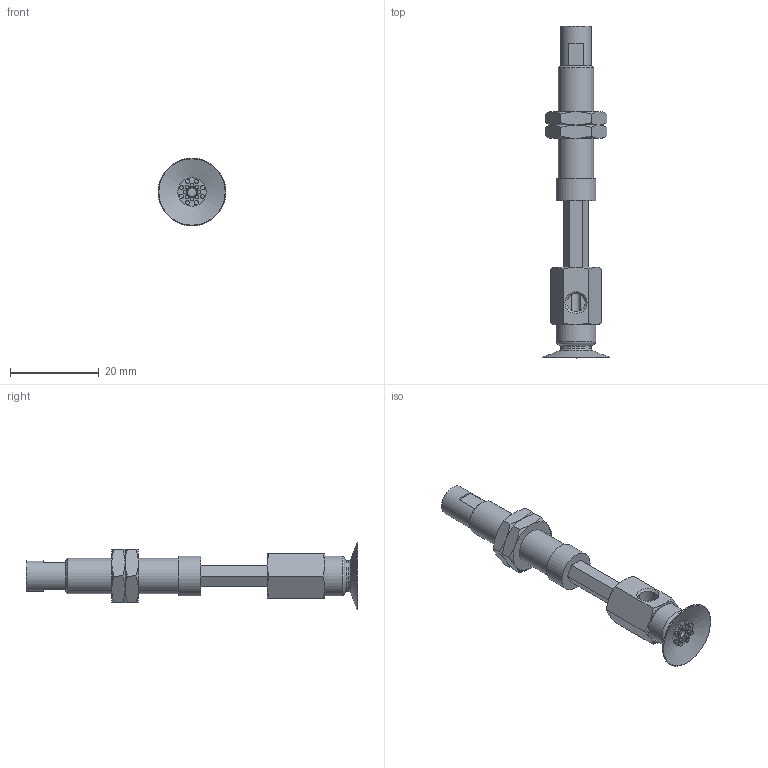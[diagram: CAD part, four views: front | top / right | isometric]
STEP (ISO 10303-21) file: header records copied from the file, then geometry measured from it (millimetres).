
FILE_DESCRIPTION(('STEP AP203'),'1');
FILE_NAME('.stp','2025-03-13T03:05:25',(' '),(' '),'Spatial InterOp 3D',' ',' ');
FILE_SCHEMA(('CONFIG_CONTROL_DESIGN'));
Length unit declared in the file: millimetre
Products named in the file (6): BNABPAYH-15A-15-※; NAPATH-10A-15--M; NAPATH-10A-15--F; Nut-10A-S; CONNECTOR-10A-15-PA; BPAG-15A-※
Assembly tree (6 placements, depth 2):
  BNABPAYH-15A-15-※
    NAPATH-10A-15--M
    NAPATH-10A-15--F
    Nut-10A-S  x2
    CONNECTOR-10A-15-PA
    BPAG-15A-※
Bounding box: 15.3 x 75 x 15.3 mm (x, y, z)
Volume: 3960.3 mm3; surface area: 5046.1 mm2
Topology: 6 solids, 6 shells, 170 faces, 347 edges, 214 vertices
Faces by surface type: plane 79, cone 50, cylinder 32, torus 9
Full cylindrical faces by diameter (mm): 0.9 x16, 2 x2, 4 x2, 4.134 x2, 5 x1, 6 x2, 7 x2, 7.188 x2, 8 x1, 9 x2
Entity records: 4064 total; most frequent: CARTESIAN_POINT 920, DIRECTION 604, ORIENTED_EDGE 480, AXIS2_PLACEMENT_3D 264, EDGE_CURVE 240, EDGE_LOOP 232, FACE_OUTER_BOUND 187, VERTEX_POINT 178
